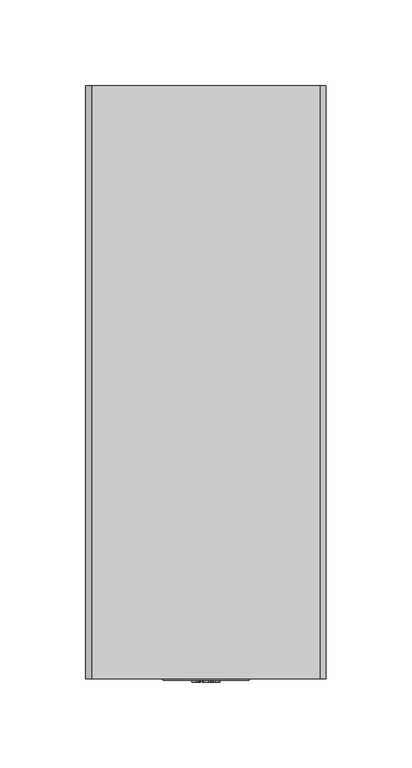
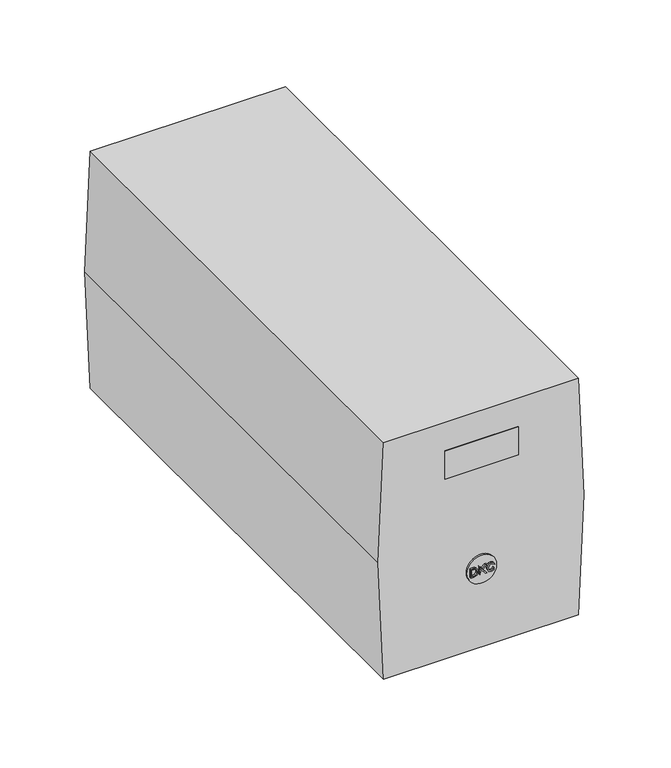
"""IFC4 building model written with IfcOpenShell, lengths in millimetres: proxy geometry, НВО_КНС_ИБПInfo_DKC : INFOLCD1200I."""

from ifc_helpers import new_model, si_unit, point, frame, frame_2d, origin, place, context, project, spatial, polyline, circle_curve, trimmed, segment, composite_curve, outline, extrude, source, transform, mapped, element, save


def electrical_equipment_459813d2(model_context):
    return source(origin(), model_context, "Body", "SweptSolid", [
        extrude(outline(polyline([(53.6666667, -8.1463789), (53.6666667, -5.967046), (53.7696736, -4.9980448), (54.6187453, -3.7273804), (55.4965117, -3.3153525), (56.7127296, -3.154956), (58.1459978, -3.391872), (59.1760674, -4.1055631), (59.6072251, -4.9914229), (59.6940453, -6.0671099), (59.6940453, -8.1463789), (53.6666667, -8.1463789)]), holes=[polyline([(54.420089, -7.3929566), (58.9406229, -7.3929566), (58.9406229, -6.0803536), (58.8199577, -5.0120243), (58.151884, -4.2299072), (56.7245018, -3.9083783), (55.5848034, -4.0724537), (54.5289821, -5.0900153), (54.420089, -6.0597522), (54.420089, -7.3929566)])]), frame((0.0, -2.0, 0.0), z_axis=(0.0, 1.0, 0.0), x_axis=(0.0, 0.0, 1.0)), (0.0, 0.0, 1.0), 6.0),
        extrude(outline(polyline([(53.6666667, -1.7422891), (55.7385781, -1.365578), (56.7068435, -0.3502237), (53.6666667, 1.9512461), (53.6666667, 2.8724226), (57.2159922, 0.183941), (59.6940453, 2.7782448), (59.6940453, 1.7246308), (56.7436317, -1.365578), (59.6940453, -2.1190003), (53.6666667, -1.7422891)])), frame((0.0, -2.0, 0.0), z_axis=(0.0, 1.0, 0.0), x_axis=(0.0, 0.0, 1.0)), (0.0, 0.0, 1.0), 6.0),
        extrude(outline(polyline([(55.8092114, 7.6754899), (54.6996793, 7.036111), (54.3259112, 5.8831689), (54.6003512, 4.8435343), (55.4295572, 4.1357294), (56.7274449, 3.9083783), (57.8472777, 4.1004127), (58.7125361, 4.7662791), (59.0348007, 5.944973), (58.744174, 6.9632704), (57.9973735, 8.3347345), (59.3188056, 7.4834555), (59.7882231, 5.9744036), (59.4254914, 4.5264201), (58.363784, 3.5118015), (56.7259733, 3.154956), (55.1146502, 3.4705987), (53.9683299, 4.3903037), (53.5724889, 5.9582168), (54.0956171, 7.5356948), (55.8092114, 7.6754899)])), frame((0.0, -2.0, 0.0), z_axis=(0.0, 1.0, 0.0), x_axis=(0.0, 0.0, 1.0)), (0.0, 0.0, 1.0), 6.0),
        extrude(outline(composite_curve([segment(trimmed(circle_curve(frame_2d((56.6666667, 0.0)), 10.0), [point((56.6666667, -10.0))], [point((56.6666667, 10.0))], False, "CARTESIAN"), True, "CONTINUOUS"), segment(trimmed(circle_curve(frame_2d((56.6666667, 0.0)), 10.0), [point((56.6666667, 10.0))], [point((56.6666667, -10.0))], False, "CARTESIAN"), True, "CONTINUOUS")], self_intersect=False)), frame((0.0, -1.0, 0.0), z_axis=(0.0, 1.0, 0.0), x_axis=(0.0, 0.0, 1.0)), (0.0, 0.0, 1.0), 10.0),
        extrude(outline(polyline([(0.0, -66.2634777), (0.0, 66.2634777), (85.0, 70.0), (170.0, 66.2634777), (170.0, -66.2634777), (85.0, -70.0), (0.0, -66.2634777)])), frame((0.0, 0.0, 0.0), z_axis=(0.0, 1.0, 0.0), x_axis=(0.0, 0.0, 1.0)), (0.0, 0.0, 1.0), 345.0),
        extrude(outline(polyline([(25.0, -1.0), (-25.0, -1.0), (-25.0, 0.0), (25.0, 0.0), (25.0, -1.0)])), frame((0.0, 0.0, 130.0), z_axis=(0.0, 0.0, 1.0), x_axis=(1.0, 0.0, 0.0)), (0.0, 0.0, 1.0), 20.0),
    ])


if __name__ == "__main__":
    model = new_model("IFC4")
    model_context = context("Model", 3, world=origin())
    ifc_project = project(units=[si_unit("LENGTHUNIT", "METRE", prefix="MILLI")], contexts=[model_context])
    site = spatial("IfcSite", under=ifc_project)
    building = spatial("IfcBuilding", under=site)
    placement = place(None, origin())
    electrical_equipment_shape = electrical_equipment_459813d2(model_context)
    element("IfcBuildingElementProxy", 1, Name="НВО_КНС_ИБПInfo_DKC : INFOLCD1200I", ObjectType="НВО_КНС_ИБПInfo_DKC : INFOLCD1200I", at=placement, inside=building, context=model_context, shape_type="MappedRepresentation", body=[
        mapped(electrical_equipment_shape, transform((0.0, 0.0, 0.0), x_axis=(1.0, 0.0, 0.0), y_axis=(0.0, 1.0, 0.0), z_axis=(0.0, 0.0, 1.0))),
    ])
    save(model, "model.ifc")
